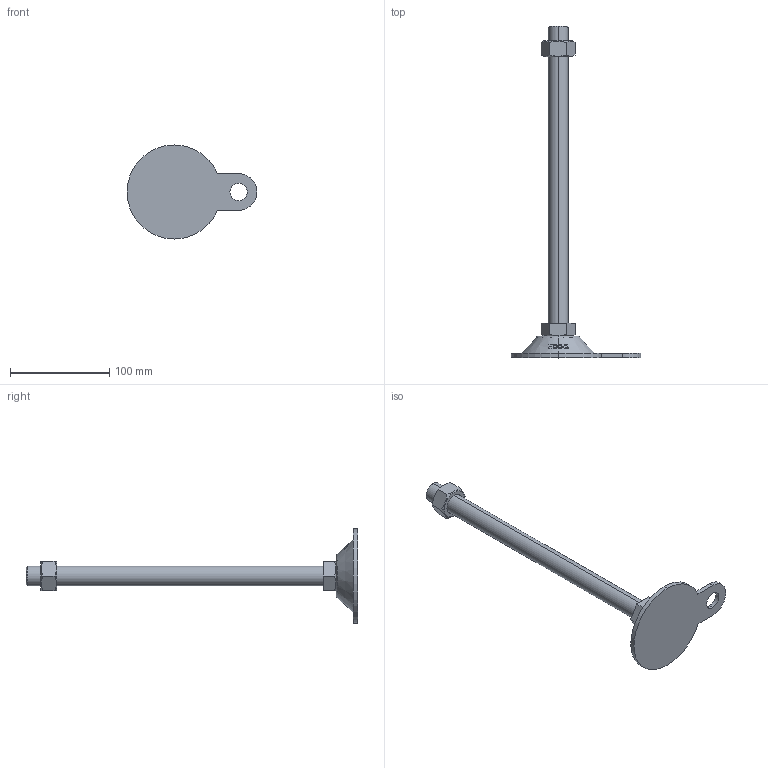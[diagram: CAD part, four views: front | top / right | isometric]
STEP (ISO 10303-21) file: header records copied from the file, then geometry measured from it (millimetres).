
FILE_DESCRIPTION (( 'STEP AP214' ), '1' );
FILE_NAME ('ABL95-M20-300.step', '2021-02-05T04:21:59', ( '' ), ( '' ), 'SwSTEP 2.0', 'SolidWorks 2019', '' );
FILE_SCHEMA (( 'AUTOMOTIVE_DESIGN' ));
Length unit declared in the file: millimetre
Products named in the file (2): ABL95-M20-300
Bounding box: 131 x 335 x 95 mm (x, y, z)
Volume: 195266.5 mm3; surface area: 43296.3 mm2
Topology: 2 solids, 2 shells, 128 faces, 328 edges, 214 vertices
Faces by surface type: plane 48, cylinder 38, cone 22, bspline 18, torus 2
Entity records: 5462 total; most frequent: CARTESIAN_POINT 2562, ORIENTED_EDGE 656, DIRECTION 474, EDGE_CURVE 328, VERTEX_POINT 214, AXIS2_PLACEMENT_3D 176, EDGE_LOOP 142, B_SPLINE_CURVE_WITH_KNOTS 142
